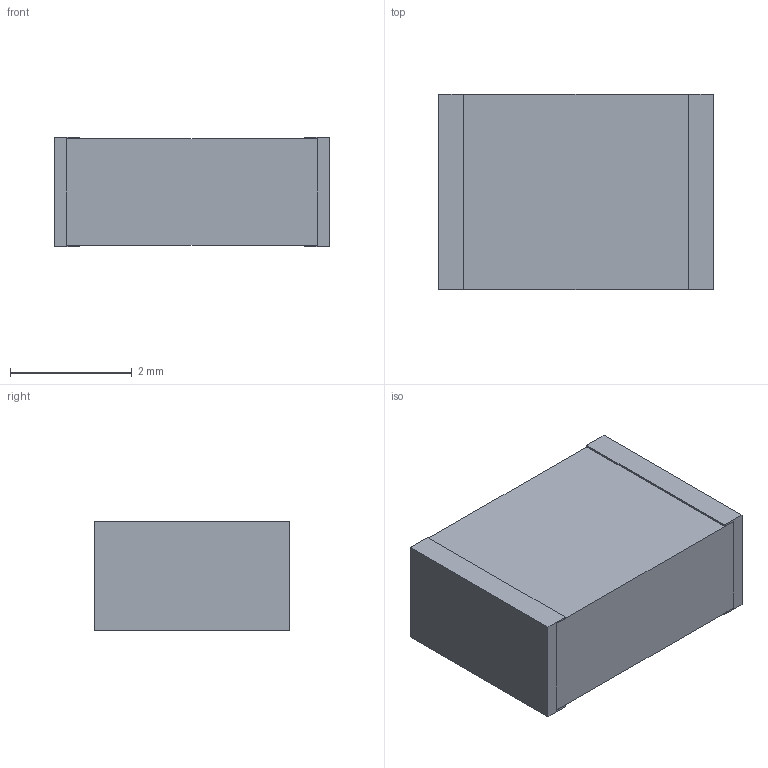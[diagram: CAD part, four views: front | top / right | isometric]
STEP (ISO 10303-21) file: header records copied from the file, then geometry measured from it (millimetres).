
FILE_DESCRIPTION(('HOOPS Exchange Step'),'2;1');
FILE_NAME('C:\Users\knoguchi\Desktop\STP\C2.stp','2021-07-20T09:44:13+09:00',('knoguchi'),('Unknown organisation'),'HOOPS Exchange 2021.1','HOOPS Exchange','Unknown authorisation');
FILE_SCHEMA( ('AP203_CONFIGURATION_CONTROLLED_3D_DESIGN_OF_MECHANICAL_PARTS_AND_ASSEMBLIES_MIM_LF') );
Length unit declared in the file: millimetre
Products named in the file (1): Export
Bounding box: 4.5 x 3.2 x 1.8 mm (x, y, z)
Volume: 25.2 mm3; surface area: 83.9 mm2
Topology: 3 solids, 3 shells, 26 faces, 60 edges, 40 vertices
Faces by surface type: plane 26
Entity records: 679 total; most frequent: CARTESIAN_POINT 187, ORIENTED_EDGE 120, B_SPLINE_CURVE_WITH_KNOTS 60, EDGE_CURVE 60, DIRECTION 54, VERTEX_POINT 40, AXIS2_PLACEMENT_3D 27, PLANE 26
